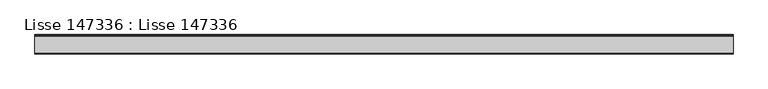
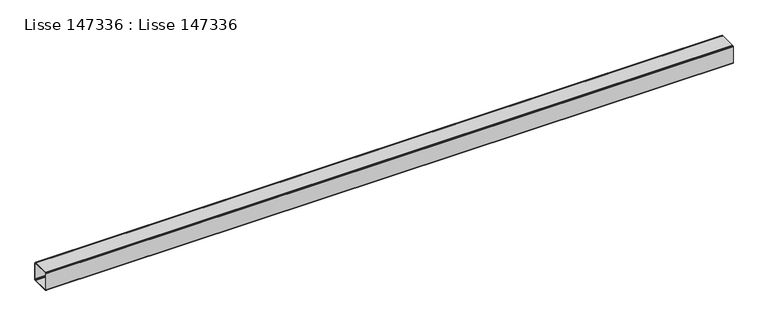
"""IFC4 building model written with IfcOpenShell, lengths in millimetres: beam geometry, Lisse 147336 : Lisse 147336."""

from ifc_helpers import new_model, si_unit, frame, origin, place, context, project, spatial, polyline, outline, extrude, source, transform, mapped, element, save


def lisse_147336_lisse_147336_a30cddbf(model_context):
    return source(origin(), model_context, "Body", "SweptSolid", [
        extrude(outline(polyline([(95.0, 7194.0), (95.0, 7106.0), (94.1961524, 7103.0), (92.0, 7100.8038476), (89.0, 7100.0), (1.0, 7100.0), (-2.0, 7100.8038476), (-4.1961524, 7103.0), (-5.0, 7106.0), (-5.0, 7194.0), (-4.1961524, 7197.0), (-2.0, 7199.1961524), (1.0, 7200.0), (89.0, 7200.0), (92.0, 7199.1961524), (94.1961524, 7197.0), (95.0, 7194.0)]), holes=[polyline([(91.0, 7108.0), (91.0, 7192.0), (90.4641016, 7194.0), (89.0, 7195.4641016), (87.0, 7196.0), (3.0, 7196.0), (1.0, 7195.4641016), (-0.4641016, 7194.0), (-1.0, 7192.0), (-1.0, 7108.0), (-0.4641016, 7106.0), (1.0, 7104.5358984), (3.0, 7104.0), (87.0, 7104.0), (89.0, 7104.5358984), (90.4641016, 7106.0), (91.0, 7108.0)])]), frame((11547.4999999, 0.0, 0.0), z_axis=(1.0, 0.0, 0.0), x_axis=(0.0, 1.0, 0.0)), (0.0, 0.0, 1.0), 3607.5),
    ])


if __name__ == "__main__":
    model = new_model("IFC4")
    model_context = context("Model", 3, world=origin())
    ifc_project = project(units=[si_unit("LENGTHUNIT", "METRE", prefix="MILLI")], contexts=[model_context])
    site = spatial("IfcSite", under=ifc_project)
    building = spatial("IfcBuilding", under=site)
    placement = place(None, origin())
    lisse_147336_lisse_147336_shape = lisse_147336_lisse_147336_a30cddbf(model_context)
    element("IfcBeam", 1, ObjectType="Lisse 147336 : Lisse 147336", at=placement, inside=building, context=model_context, shape_type="MappedRepresentation", body=[
        mapped(lisse_147336_lisse_147336_shape, transform((0.0, 0.0, 0.0), x_axis=(1.0, 0.0, 0.0), y_axis=(0.0, 1.0, 0.0), z_axis=(0.0, 0.0, 1.0))),
    ])
    save(model, "model.ifc")
